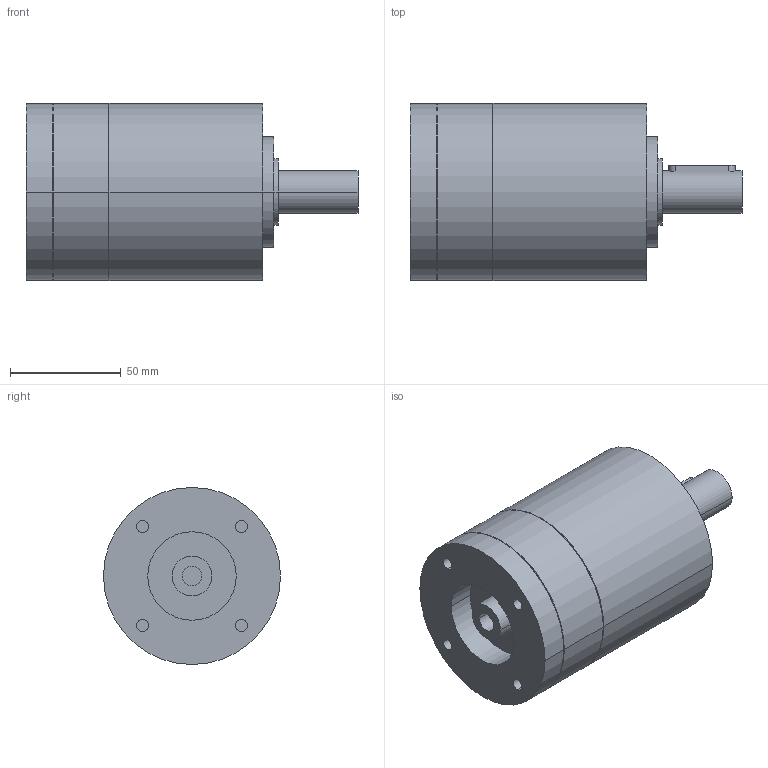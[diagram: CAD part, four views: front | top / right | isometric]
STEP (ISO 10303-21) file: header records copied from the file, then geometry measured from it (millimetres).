
FILE_DESCRIPTION(('CoCreate Modeling STEP Export'),'2;1');
FILE_NAME('GPR100_ig-3-4-5-6_19_B14_9_P17.stp','2014-08-26T10:53:38',(''),(''),'CoCreate Modeling STEP processor for AP214 (Solid Model)','CoCreate Modeling 16.00C 25-Feb-2009 (C) Parametric Technology GmbH','');
FILE_SCHEMA(('AUTOMOTIVE_DESIGN { 1 0 10303 214 1 1 1 1 }'));
Length unit declared in the file: millimetre
Products named in the file (2): GPR100_ig-3-4-5-6_19_B14_9_P17
Assembly tree (1 placements, depth 2):
  GPR100_ig-3-4-5-6_19_B14_9_P17
    GPR100_ig-3-4-5-6_19_B14_9_P17
Bounding box: 150 x 80 x 80 mm (x, y, z)
Volume: 540956.6 mm3; surface area: 46282.4 mm2
Topology: 1 solids, 1 shells, 77 faces, 195 edges, 139 vertices
Faces by surface type: cylinder 46, plane 25, cone 6
Entity records: 1961 total; most frequent: ORIENTED_EDGE 386, CARTESIAN_POINT 359, DIRECTION 254, EDGE_CURVE 193, VERTEX_POINT 139, AXIS2_PLACEMENT_3D 98, EDGE_LOOP 98, FACE_OUTER_BOUND 77
